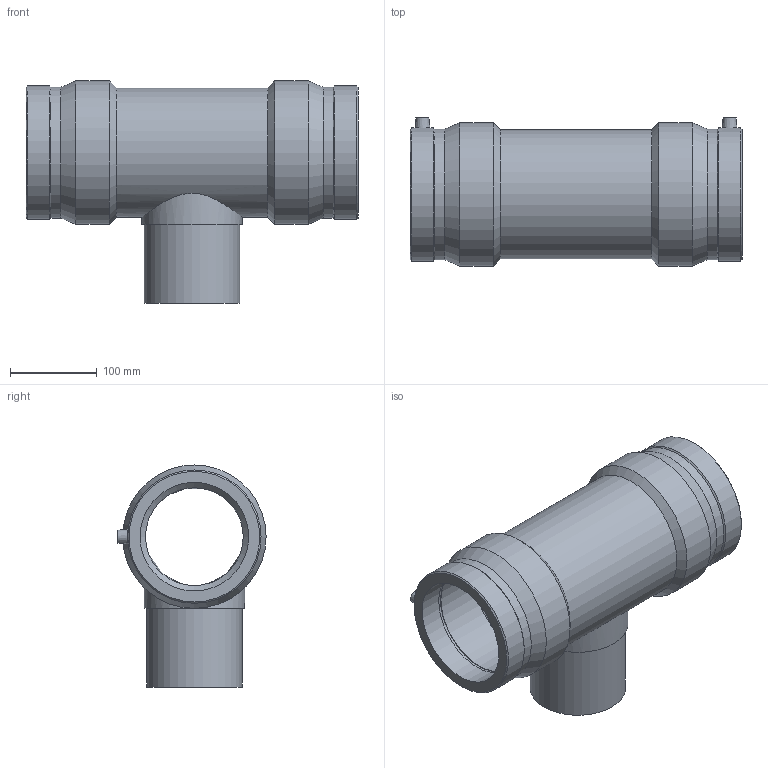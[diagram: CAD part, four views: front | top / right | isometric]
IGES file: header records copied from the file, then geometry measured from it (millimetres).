
Global section: file name: 491404125110.ipt; native system: Autodesk Inventor 2015; preprocessor: unknown; author: KIM; date: 20190909.112837; units: millimetre
Bounding box: 382 x 170.5 x 255.5 mm (x, y, z)
Volume: 3176345.3 mm3; surface area: 407957.6 mm2
Topology: 1 solids, 1 shells, 45 faces, 101 edges, 66 vertices
Faces by surface type: plane 12, revolution 12, cylinder 11, cone 10
Full cylindrical faces by diameter (mm): 4 x2, 110 x1, 115.5 x1, 148.5 x1, 150.381 x2, 153.45 x2, 165 x2
